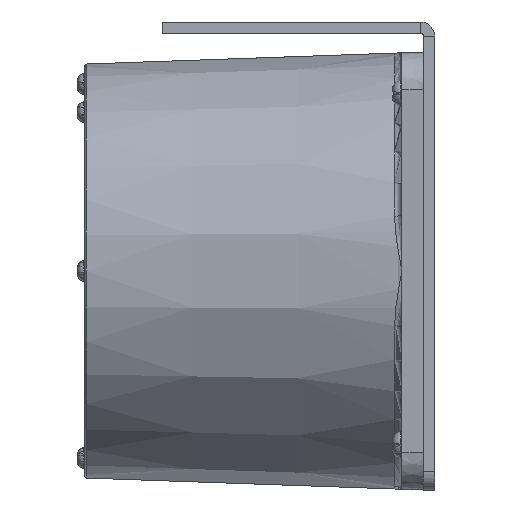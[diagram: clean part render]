
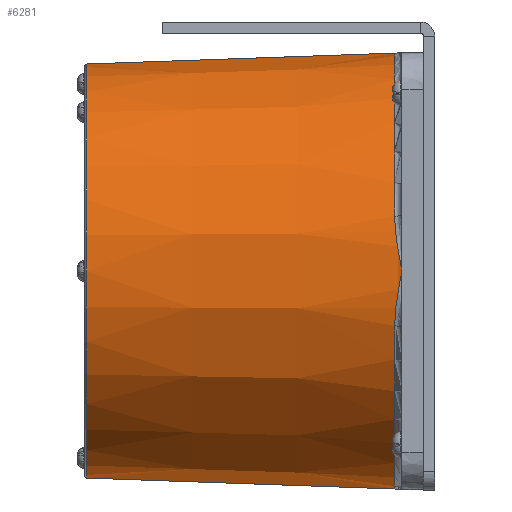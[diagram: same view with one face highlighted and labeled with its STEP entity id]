
A CAD part, left-side view. The second image highlights one B-rep face of the part: STEP entity #6281.
In plain terms, the highlighted conical face has half-angle 2.033 degrees and reference radius 58.25 mm.
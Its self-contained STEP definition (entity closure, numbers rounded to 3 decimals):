
#15 = CARTESIAN_POINT ( 'NONE',  ( -58.027, 5.93, 1.222 ) ) ;
#142 = DIRECTION ( 'NONE',  ( 0., 0., -1. ) ) ;
#286 = ORIENTED_EDGE ( 'NONE', *, *, #8041, .T. ) ;
#305 = LINE ( 'NONE', #6858, #1300 ) ;
#365 = DIRECTION ( 'NONE',  ( 0., 1., 0. ) ) ;
#741 = DIRECTION ( 'NONE',  ( 0., 1., 0. ) ) ;
#813 = CONICAL_SURFACE ( 'NONE', #8140, 58.25, 0.035 ) ;
#819 = CARTESIAN_POINT ( 'NONE',  ( -57.701, 6.798, 6.092 ) ) ;
#908 = ORIENTED_EDGE ( 'NONE', *, *, #5919, .T. ) ;
#920 = CARTESIAN_POINT ( 'NONE',  ( -58.018, 5.987, 1.527 ) ) ;
#922 = EDGE_CURVE ( 'NONE', #5597, #1605, #8263, .T. ) ;
#1300 = VECTOR ( 'NONE', #4505, 1000. ) ;
#1323 = EDGE_CURVE ( 'NONE', #9978, #4228, #305, .T. ) ;
#1362 = LINE ( 'NONE', #8137, #8371 ) ;
#1587 = FACE_OUTER_BOUND ( 'NONE', #8412, .T. ) ;
#1605 = VERTEX_POINT ( 'NONE', #3342 ) ;
#1641 = DIRECTION ( 'NONE',  ( 0., 0., 1. ) ) ;
#1655 = CARTESIAN_POINT ( 'NONE',  ( -57.824, 6.593, 4.877 ) ) ;
#1890 = DIRECTION ( 'NONE',  ( 0., -1., 0. ) ) ;
#2064 = CARTESIAN_POINT ( 'NONE',  ( -56.113, 7.629, -14.591 ) ) ;
#2236 = CARTESIAN_POINT ( 'NONE',  ( -57.18, 7.32, -9.74 ) ) ;
#2559 = CARTESIAN_POINT ( 'NONE',  ( -58.041, 5.815, 0.611 ) ) ;
#2593 = ORIENTED_EDGE ( 'NONE', *, *, #922, .T. ) ;
#2935 = ORIENTED_EDGE ( 'NONE', *, *, #6743, .T. ) ;
#2989 = EDGE_CURVE ( 'NONE', #9978, #3853, #9162, .T. ) ;
#3342 = CARTESIAN_POINT ( 'NONE',  ( -58.048, 5.7, 0. ) ) ;
#3403 = CARTESIAN_POINT ( 'NONE',  ( -57.379, 7.161, 8.523 ) ) ;
#3795 = CARTESIAN_POINT ( 'NONE',  ( 0., 89.518, 0. ) ) ;
#3853 = VERTEX_POINT ( 'NONE', #7264 ) ;
#4181 = CARTESIAN_POINT ( 'NONE',  ( -58.046, 5.757, 0.304 ) ) ;
#4228 = VERTEX_POINT ( 'NONE', #9934 ) ;
#4329 = B_SPLINE_CURVE_WITH_KNOTS ( 'NONE', 3,
 ( #10121, #4181, #2559, #15, #920, #9220, #5797, #1655, #819, #3403, #4342, #8379, #9434, #6687 ),
 .UNSPECIFIED., .F., .F.,
 ( 4, 2, 2, 2, 2, 2, 4 ),
 ( 0., 0.001, 0.002, 0.004, 0.007, 0.011, 0.015 ),
 .UNSPECIFIED. ) ;
#4342 = CARTESIAN_POINT ( 'NONE',  ( -57.18, 7.32, 9.74 ) ) ;
#4505 = DIRECTION ( 'NONE',  ( 0., -0.999, 0.035 ) ) ;
#4560 = CIRCLE ( 'NONE', #9560, 57.979 ) ;
#4637 = CARTESIAN_POINT ( 'NONE',  ( -58.031, 6.161, -2.445 ) ) ;
#4686 = CARTESIAN_POINT ( 'NONE',  ( -56.427, 7.629, -13.384 ) ) ;
#4800 = CARTESIAN_POINT ( 'NONE',  ( -58.048, 5.7, 0. ) ) ;
#4866 = CARTESIAN_POINT ( 'NONE',  ( 0., 89.518, 55.073 ) ) ;
#5109 = DIRECTION ( 'NONE',  ( 0., -1., 0. ) ) ;
#5218 = AXIS2_PLACEMENT_3D ( 'NONE', #3795, #1890, #142 ) ;
#5475 = CARTESIAN_POINT ( 'NONE',  ( -57.379, 7.161, -8.523 ) ) ;
#5492 = ORIENTED_EDGE ( 'NONE', *, *, #2989, .T. ) ;
#5493 = AXIS2_PLACEMENT_3D ( 'NONE', #8043, #365, #7188 ) ;
#5597 = VERTEX_POINT ( 'NONE', #8382 ) ;
#5797 = CARTESIAN_POINT ( 'NONE',  ( -57.951, 6.268, 3.051 ) ) ;
#5919 = EDGE_CURVE ( 'NONE', #7486, #4228, #4560, .T. ) ;
#6281 = ADVANCED_FACE ( 'NONE', ( #1587 ), #813, .T. ) ;
#6376 = CARTESIAN_POINT ( 'NONE',  ( -56.703, 7.553, -12.174 ) ) ;
#6438 = CARTESIAN_POINT ( 'NONE',  ( -56.113, 7.629, 14.591 ) ) ;
#6562 = CARTESIAN_POINT ( 'NONE',  ( 0., 7.629, 0. ) ) ;
#6687 = CARTESIAN_POINT ( 'NONE',  ( -56.113, 7.629, 14.591 ) ) ;
#6743 = EDGE_CURVE ( 'NONE', #1605, #7486, #4329, .T. ) ;
#6858 = CARTESIAN_POINT ( 'NONE',  ( 0., 0., 58.25 ) ) ;
#7188 = DIRECTION ( 'NONE',  ( 0., 0., 1. ) ) ;
#7264 = CARTESIAN_POINT ( 'NONE',  ( 0., 89.518, -55.073 ) ) ;
#7486 = VERTEX_POINT ( 'NONE', #6438 ) ;
#7774 = ORIENTED_EDGE ( 'NONE', *, *, #9479, .T. ) ;
#8041 = EDGE_CURVE ( 'NONE', #10434, #5597, #9420, .T. ) ;
#8043 = CARTESIAN_POINT ( 'NONE',  ( 0., 7.629, 0. ) ) ;
#8137 = CARTESIAN_POINT ( 'NONE',  ( 0., 0., -58.25 ) ) ;
#8140 = AXIS2_PLACEMENT_3D ( 'NONE', #10042, #5109, #1641 ) ;
#8263 = B_SPLINE_CURVE_WITH_KNOTS ( 'NONE', 3,
 ( #2064, #4686, #6376, #2236, #5475, #9790, #4637, #4800 ),
 .UNSPECIFIED., .F., .F.,
 ( 4, 2, 2, 4 ),
 ( 0., 0.004, 0.007, 0.015 ),
 .UNSPECIFIED. ) ;
#8361 = DIRECTION ( 'NONE',  ( 0., 0., 1. ) ) ;
#8371 = VECTOR ( 'NONE', #10895, 1000. ) ;
#8379 = CARTESIAN_POINT ( 'NONE',  ( -56.703, 7.553, 12.174 ) ) ;
#8382 = CARTESIAN_POINT ( 'NONE',  ( -56.113, 7.629, -14.591 ) ) ;
#8412 = EDGE_LOOP ( 'NONE', ( #8750, #5492, #7774, #286, #2593, #2935, #908 ) ) ;
#8750 = ORIENTED_EDGE ( 'NONE', *, *, #1323, .F. ) ;
#9162 = CIRCLE ( 'NONE', #5218, 55.073 ) ;
#9220 = CARTESIAN_POINT ( 'NONE',  ( -57.983, 6.156, 2.441 ) ) ;
#9420 = CIRCLE ( 'NONE', #5493, 57.979 ) ;
#9434 = CARTESIAN_POINT ( 'NONE',  ( -56.427, 7.629, 13.384 ) ) ;
#9479 = EDGE_CURVE ( 'NONE', #3853, #10434, #1362, .T. ) ;
#9560 = AXIS2_PLACEMENT_3D ( 'NONE', #6562, #741, #8361 ) ;
#9790 = CARTESIAN_POINT ( 'NONE',  ( -57.862, 6.616, -4.877 ) ) ;
#9934 = CARTESIAN_POINT ( 'NONE',  ( 0., 7.629, 57.979 ) ) ;
#9978 = VERTEX_POINT ( 'NONE', #4866 ) ;
#10042 = CARTESIAN_POINT ( 'NONE',  ( 0., 0., 0. ) ) ;
#10121 = CARTESIAN_POINT ( 'NONE',  ( -58.048, 5.7, 0. ) ) ;
#10434 = VERTEX_POINT ( 'NONE', #10866 ) ;
#10866 = CARTESIAN_POINT ( 'NONE',  ( 0., 7.629, -57.979 ) ) ;
#10895 = DIRECTION ( 'NONE',  ( 0., -0.999, -0.035 ) ) ;
